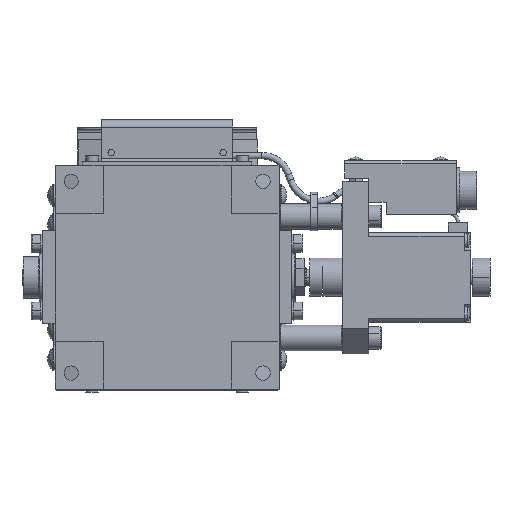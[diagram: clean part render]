
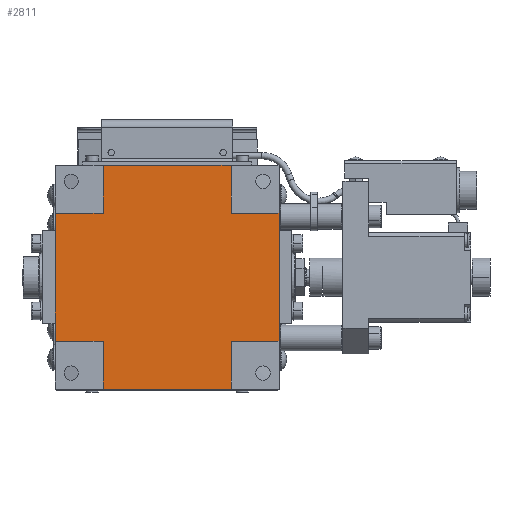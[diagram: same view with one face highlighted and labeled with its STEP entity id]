
A CAD part, front view. The second image highlights one B-rep face of the part: STEP entity #2811.
In plain terms, the highlighted planar face has unit normal (0, -1, 0).
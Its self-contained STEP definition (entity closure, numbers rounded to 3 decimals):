
#2265 = VERTEX_POINT ( 'NONE', #42878 ) ;
#2272 = DIRECTION ( 'NONE',  ( 0., 0., -1. ) ) ;
#2376 = CARTESIAN_POINT ( 'NONE',  ( 35., 0.3, 20. ) ) ;
#2811 = ADVANCED_FACE ( 'NONE', ( #13547 ), #23135, .F. ) ;
#2924 = EDGE_CURVE ( 'NONE', #16097, #25027, #19268, .T. ) ;
#3241 = ORIENTED_EDGE ( 'NONE', *, *, #31062, .T. ) ;
#4837 = CARTESIAN_POINT ( 'NONE',  ( -20., 0.3, -20. ) ) ;
#5196 = VECTOR ( 'NONE', #41837, 1000. ) ;
#5230 = CARTESIAN_POINT ( 'NONE',  ( -20., 0.3, 20. ) ) ;
#5361 = AXIS2_PLACEMENT_3D ( 'NONE', #36706, #33368, #43262 ) ;
#5937 = DIRECTION ( 'NONE',  ( -1., 0., 0. ) ) ;
#6063 = ORIENTED_EDGE ( 'NONE', *, *, #15176, .T. ) ;
#6802 = DIRECTION ( 'NONE',  ( 0., 0., 1. ) ) ;
#7365 = ORIENTED_EDGE ( 'NONE', *, *, #40170, .T. ) ;
#8091 = VECTOR ( 'NONE', #6802, 1000. ) ;
#9351 = EDGE_CURVE ( 'NONE', #25709, #18272, #28978, .T. ) ;
#10133 = EDGE_CURVE ( 'NONE', #2265, #22410, #31542, .T. ) ;
#10803 = CARTESIAN_POINT ( 'NONE',  ( -20., 0.3, 35. ) ) ;
#11653 = CARTESIAN_POINT ( 'NONE',  ( 20., 0.3, 35. ) ) ;
#12662 = ORIENTED_EDGE ( 'NONE', *, *, #2924, .T. ) ;
#13113 = EDGE_CURVE ( 'NONE', #18272, #2265, #28082, .T. ) ;
#13547 = FACE_OUTER_BOUND ( 'NONE', #34943, .T. ) ;
#13789 = VECTOR ( 'NONE', #5937, 1000. ) ;
#14031 = VECTOR ( 'NONE', #40918, 1000. ) ;
#14057 = LINE ( 'NONE', #31842, #43213 ) ;
#14972 = DIRECTION ( 'NONE',  ( 1., 0., 0. ) ) ;
#15176 = EDGE_CURVE ( 'NONE', #27600, #36594, #40603, .T. ) ;
#15851 = CARTESIAN_POINT ( 'NONE',  ( -20., 0.3, 35. ) ) ;
#15884 = ORIENTED_EDGE ( 'NONE', *, *, #28725, .T. ) ;
#16097 = VERTEX_POINT ( 'NONE', #11653 ) ;
#18178 = CARTESIAN_POINT ( 'NONE',  ( 20., 0.3, 20. ) ) ;
#18272 = VERTEX_POINT ( 'NONE', #31550 ) ;
#18447 = CARTESIAN_POINT ( 'NONE',  ( -20., 0.3, 20. ) ) ;
#19043 = CARTESIAN_POINT ( 'NONE',  ( -35., 0.3, -20. ) ) ;
#19048 = EDGE_CURVE ( 'NONE', #39612, #29249, #32548, .T. ) ;
#19268 = LINE ( 'NONE', #15851, #30698 ) ;
#19580 = LINE ( 'NONE', #19043, #38372 ) ;
#19619 = ORIENTED_EDGE ( 'NONE', *, *, #9351, .T. ) ;
#19667 = CARTESIAN_POINT ( 'NONE',  ( 20., 0.3, -35. ) ) ;
#20255 = VECTOR ( 'NONE', #30154, 1000. ) ;
#20522 = LINE ( 'NONE', #21361, #38767 ) ;
#21361 = CARTESIAN_POINT ( 'NONE',  ( -20., 0.3, -35. ) ) ;
#21584 = VECTOR ( 'NONE', #2272, 1000. ) ;
#22410 = VERTEX_POINT ( 'NONE', #2376 ) ;
#22457 = DIRECTION ( 'NONE',  ( 0., 0., 1. ) ) ;
#23135 = PLANE ( 'NONE',  #5361 ) ;
#24285 = LINE ( 'NONE', #18178, #27416 ) ;
#24567 = ORIENTED_EDGE ( 'NONE', *, *, #13113, .T. ) ;
#25027 = VERTEX_POINT ( 'NONE', #10803 ) ;
#25458 = VERTEX_POINT ( 'NONE', #39675 ) ;
#25709 = VERTEX_POINT ( 'NONE', #28792 ) ;
#26147 = DIRECTION ( 'NONE',  ( 1., 0., 0. ) ) ;
#26740 = LINE ( 'NONE', #5230, #21584 ) ;
#26927 = CARTESIAN_POINT ( 'NONE',  ( 20., 0.3, -20. ) ) ;
#27416 = VECTOR ( 'NONE', #34794, 1000. ) ;
#27600 = VERTEX_POINT ( 'NONE', #4837 ) ;
#28082 = LINE ( 'NONE', #26927, #20255 ) ;
#28725 = EDGE_CURVE ( 'NONE', #25458, #16097, #24285, .T. ) ;
#28792 = CARTESIAN_POINT ( 'NONE',  ( 20., 0.3, -35. ) ) ;
#28978 = LINE ( 'NONE', #19667, #8091 ) ;
#29025 = EDGE_CURVE ( 'NONE', #34927, #27600, #19580, .T. ) ;
#29249 = VERTEX_POINT ( 'NONE', #31524 ) ;
#30154 = DIRECTION ( 'NONE',  ( 1., 0., 0. ) ) ;
#30698 = VECTOR ( 'NONE', #35929, 1000. ) ;
#31062 = EDGE_CURVE ( 'NONE', #29249, #34927, #42807, .T. ) ;
#31524 = CARTESIAN_POINT ( 'NONE',  ( -35., 0.3, 20. ) ) ;
#31542 = LINE ( 'NONE', #35435, #33667 ) ;
#31550 = CARTESIAN_POINT ( 'NONE',  ( 20., 0.3, -20. ) ) ;
#31761 = CARTESIAN_POINT ( 'NONE',  ( -35., 0.3, 20. ) ) ;
#31842 = CARTESIAN_POINT ( 'NONE',  ( 20., 0.3, 20. ) ) ;
#31996 = EDGE_CURVE ( 'NONE', #22410, #25458, #14057, .T. ) ;
#32387 = CARTESIAN_POINT ( 'NONE',  ( -35., 0.3, 20. ) ) ;
#32548 = LINE ( 'NONE', #32387, #13789 ) ;
#33368 = DIRECTION ( 'NONE',  ( 0., 1., 0. ) ) ;
#33666 = CARTESIAN_POINT ( 'NONE',  ( -20., 0.3, -35. ) ) ;
#33667 = VECTOR ( 'NONE', #22457, 1000. ) ;
#33858 = ORIENTED_EDGE ( 'NONE', *, *, #39556, .T. ) ;
#34094 = CARTESIAN_POINT ( 'NONE',  ( -35., 0.3, -20. ) ) ;
#34536 = CARTESIAN_POINT ( 'NONE',  ( -20., 0.3, -35. ) ) ;
#34794 = DIRECTION ( 'NONE',  ( 0., 0., 1. ) ) ;
#34927 = VERTEX_POINT ( 'NONE', #34094 ) ;
#34943 = EDGE_LOOP ( 'NONE', ( #24567, #39055, #42950, #15884, #12662, #7365, #41114, #3241, #35171, #6063, #33858, #19619 ) ) ;
#35171 = ORIENTED_EDGE ( 'NONE', *, *, #29025, .T. ) ;
#35435 = CARTESIAN_POINT ( 'NONE',  ( 35., 0.3, 20. ) ) ;
#35929 = DIRECTION ( 'NONE',  ( -1., 0., 0. ) ) ;
#36594 = VERTEX_POINT ( 'NONE', #33666 ) ;
#36706 = CARTESIAN_POINT ( 'NONE',  ( 0., 0.3, 0. ) ) ;
#38372 = VECTOR ( 'NONE', #26147, 1000. ) ;
#38767 = VECTOR ( 'NONE', #14972, 1000. ) ;
#39055 = ORIENTED_EDGE ( 'NONE', *, *, #10133, .T. ) ;
#39556 = EDGE_CURVE ( 'NONE', #36594, #25709, #20522, .T. ) ;
#39612 = VERTEX_POINT ( 'NONE', #18447 ) ;
#39675 = CARTESIAN_POINT ( 'NONE',  ( 20., 0.3, 20. ) ) ;
#40170 = EDGE_CURVE ( 'NONE', #25027, #39612, #26740, .T. ) ;
#40603 = LINE ( 'NONE', #34536, #14031 ) ;
#40918 = DIRECTION ( 'NONE',  ( 0., 0., -1. ) ) ;
#41114 = ORIENTED_EDGE ( 'NONE', *, *, #19048, .T. ) ;
#41784 = DIRECTION ( 'NONE',  ( -1., 0., 0. ) ) ;
#41837 = DIRECTION ( 'NONE',  ( 0., 0., -1. ) ) ;
#42807 = LINE ( 'NONE', #31761, #5196 ) ;
#42878 = CARTESIAN_POINT ( 'NONE',  ( 35., 0.3, -20. ) ) ;
#42950 = ORIENTED_EDGE ( 'NONE', *, *, #31996, .T. ) ;
#43213 = VECTOR ( 'NONE', #41784, 1000. ) ;
#43262 = DIRECTION ( 'NONE',  ( -1., 0., 0. ) ) ;
